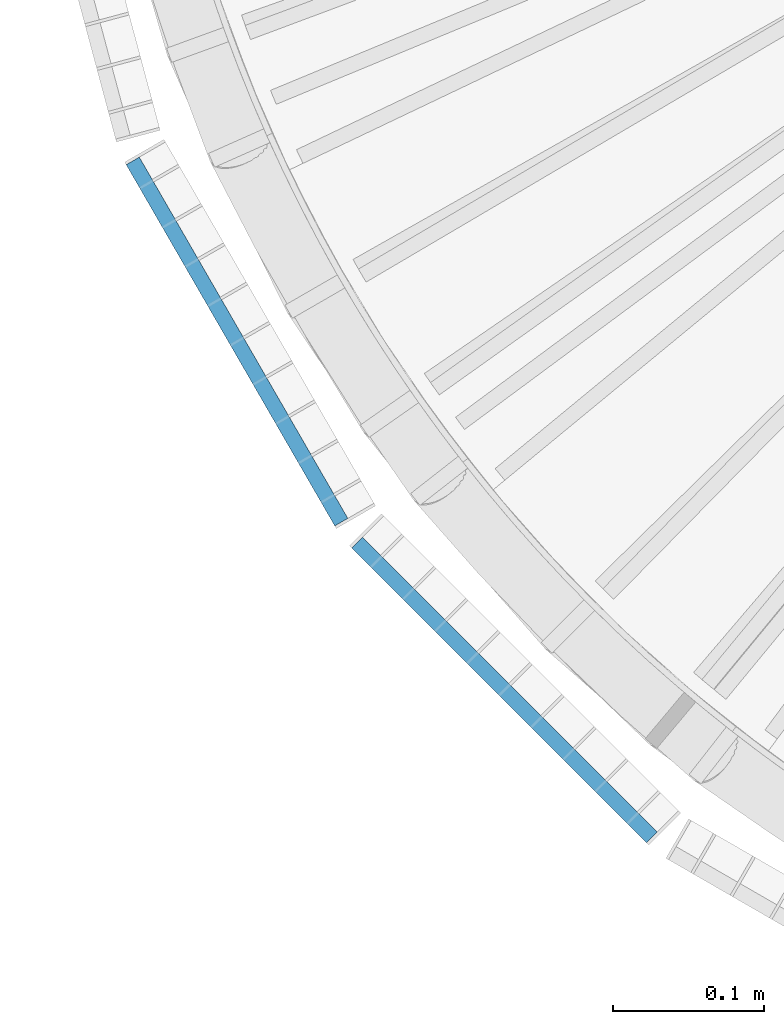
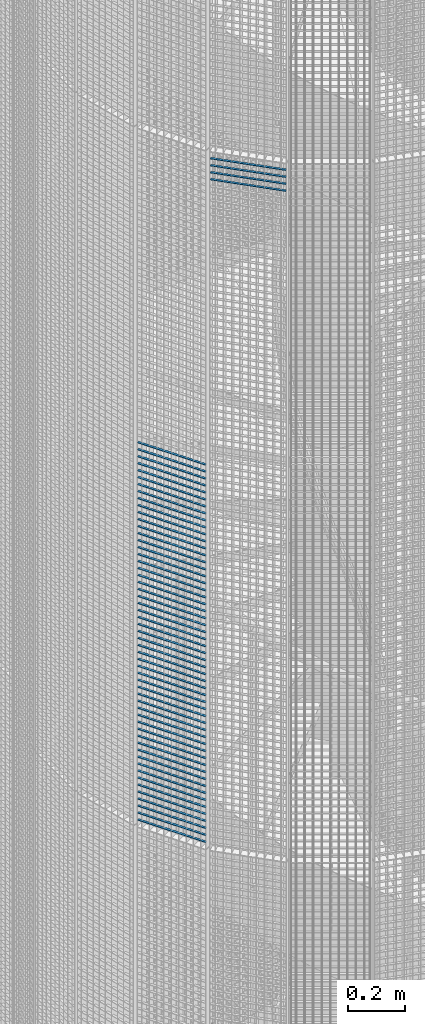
# One storey, part 356 of 1183: 59 beams, 2 elements without a shape of their own.
"""IFC2X3 building model written with IfcOpenShell, lengths in millimetres."""

from ifc_helpers import new_model, si_unit, frame, origin_with_axes, origin_2d_with_axis, place, context, subcontext, project, spatial, rectangle, extrude, material, type_object, element, aggregate, save


model = new_model("IFC2X3")

# Units and contexts
model_context = context("Model", 3, precision=1e-05, world=origin_with_axes())
body_context = subcontext(model_context, "Body", "Model", "MODEL_VIEW")
ifc_project = project(units=[si_unit("LENGTHUNIT", "METRE", prefix="MILLI"), si_unit("AREAUNIT", "SQUARE_METRE"), si_unit("VOLUMEUNIT", "CUBIC_METRE"), si_unit("MASSUNIT", "GRAM", prefix="KILO"), si_unit("TIMEUNIT", "SECOND"), si_unit("PLANEANGLEUNIT", "RADIAN"), si_unit("SOLIDANGLEUNIT", "STERADIAN"), si_unit("THERMODYNAMICTEMPERATUREUNIT", "DEGREE_CELSIUS"), si_unit("LUMINOUSINTENSITYUNIT", "LUMEN")], contexts=[model_context])

# Site, building, storey
site_placement = place(None, origin_with_axes())
site = spatial("IfcSite", under=ifc_project, at=site_placement, Name="Undefined", CompositionType="ELEMENT")
building_placement = place(site_placement, origin_with_axes())
building = spatial("IfcBuilding", under=site, at=building_placement, Name="Undefined", CompositionType="ELEMENT")
storey_placement = place(building_placement, origin_with_axes())
storey = spatial("IfcBuildingStorey", under=building, at=storey_placement, Name="Undefined", CompositionType="ELEMENT", Elevation=0.0)

# Assembly, beams
assembly_1_placement = place(storey_placement, origin_with_axes())
assembly_1 = element("IfcElementAssembly", 1, at=assembly_1_placement, inside=storey, Name="BORDURE", AssemblyPlace="NOTDEFINED", PredefinedType="NOTDEFINED")
ifc_material = material(Name="STEEL/S235JR")
beam_type = type_object("IfcBeamType", Name="PL2*10", PredefinedType="NOTDEFINED")
beam_1_placement = place(assembly_1_placement, frame((20704.6960350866, -676.248044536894, 10650.0), z_axis=(-0.866025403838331, -0.499999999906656, 0.0), x_axis=(-0.49999999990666, 0.866025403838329, 0.0)))
beam_1 = element("IfcBeam", 2, at=beam_1_placement, type_object=beam_type, material=ifc_material, Name="ENTRETOISE", context=body_context, shape_type="SweptSolid", body=[
    extrude(rectangle(XDim=2.0, YDim=10.0, at=origin_2d_with_axis()), frame((275.999999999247, 9.09494701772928e-13, 1.53210777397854e-14), z_axis=(-1.0, 0.0, 0.0), x_axis=(0.0, -1.0, 0.0)), (0.0, 0.0, 1.0), 276.0),
])
beam_2_placement = place(assembly_1_placement, frame((20704.6960350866, -676.248044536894, 10620.0), z_axis=(-0.866025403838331, -0.499999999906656, 0.0), x_axis=(-0.49999999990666, 0.866025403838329, 0.0)))
beam_2 = element("IfcBeam", 3, at=beam_2_placement, type_object=beam_type, material=ifc_material, Name="ENTRETOISE", context=body_context, shape_type="SweptSolid", body=[
    extrude(rectangle(XDim=2.0, YDim=10.0, at=origin_2d_with_axis()), frame((275.999999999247, 9.09494701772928e-13, 1.53210777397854e-14), z_axis=(-1.0, 0.0, 0.0), x_axis=(0.0, -1.0, 0.0)), (0.0, 0.0, 1.0), 276.0),
])
beam_3_placement = place(assembly_1_placement, frame((20704.6960350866, -676.248044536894, 10590.0), z_axis=(-0.866025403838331, -0.499999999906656, 0.0), x_axis=(-0.49999999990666, 0.866025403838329, 0.0)))
beam_3 = element("IfcBeam", 4, at=beam_3_placement, type_object=beam_type, material=ifc_material, Name="ENTRETOISE", context=body_context, shape_type="SweptSolid", body=[
    extrude(rectangle(XDim=2.0, YDim=10.0, at=origin_2d_with_axis()), frame((275.999999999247, 9.09494701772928e-13, 1.53210777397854e-14), z_axis=(-1.0, 0.0, 0.0), x_axis=(0.0, -1.0, 0.0)), (0.0, 0.0, 1.0), 276.0),
])
beam_4_placement = place(assembly_1_placement, frame((20704.6960350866, -676.248044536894, 10560.0), z_axis=(-0.866025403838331, -0.499999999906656, 0.0), x_axis=(-0.49999999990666, 0.866025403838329, 0.0)))
beam_4 = element("IfcBeam", 5, at=beam_4_placement, type_object=beam_type, material=ifc_material, Name="ENTRETOISE", context=body_context, shape_type="SweptSolid", body=[
    extrude(rectangle(XDim=2.0, YDim=10.0, at=origin_2d_with_axis()), frame((275.999999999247, 9.09494701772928e-13, 1.53210777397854e-14), z_axis=(-1.0, 0.0, 0.0), x_axis=(0.0, -1.0, 0.0)), (0.0, 0.0, 1.0), 276.0),
])
beam_5_placement = place(assembly_1_placement, frame((20704.6960350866, -676.248044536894, 10530.0), z_axis=(-0.866025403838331, -0.499999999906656, 0.0), x_axis=(-0.49999999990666, 0.866025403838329, 0.0)))
beam_5 = element("IfcBeam", 6, at=beam_5_placement, type_object=beam_type, material=ifc_material, Name="ENTRETOISE", context=body_context, shape_type="SweptSolid", body=[
    extrude(rectangle(XDim=2.0, YDim=10.0, at=origin_2d_with_axis()), frame((275.999999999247, 9.09494701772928e-13, 1.53210777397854e-14), z_axis=(-1.0, 0.0, 0.0), x_axis=(0.0, -1.0, 0.0)), (0.0, 0.0, 1.0), 276.0),
])
beam_6_placement = place(assembly_1_placement, frame((20704.6960350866, -676.248044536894, 10500.0), z_axis=(-0.866025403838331, -0.499999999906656, 0.0), x_axis=(-0.49999999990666, 0.866025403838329, 0.0)))
beam_6 = element("IfcBeam", 7, at=beam_6_placement, type_object=beam_type, material=ifc_material, Name="ENTRETOISE", context=body_context, shape_type="SweptSolid", body=[
    extrude(rectangle(XDim=2.0, YDim=10.0, at=origin_2d_with_axis()), frame((275.999999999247, 9.09494701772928e-13, 1.53210777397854e-14), z_axis=(-1.0, 0.0, 0.0), x_axis=(0.0, -1.0, 0.0)), (0.0, 0.0, 1.0), 276.0),
])
beam_7_placement = place(assembly_1_placement, frame((20704.6960350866, -676.248044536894, 10470.0), z_axis=(-0.866025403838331, -0.499999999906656, 0.0), x_axis=(-0.49999999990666, 0.866025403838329, 0.0)))
beam_7 = element("IfcBeam", 8, at=beam_7_placement, type_object=beam_type, material=ifc_material, Name="ENTRETOISE", context=body_context, shape_type="SweptSolid", body=[
    extrude(rectangle(XDim=2.0, YDim=10.0, at=origin_2d_with_axis()), frame((275.999999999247, 9.09494701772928e-13, 1.53210777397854e-14), z_axis=(-1.0, 0.0, 0.0), x_axis=(0.0, -1.0, 0.0)), (0.0, 0.0, 1.0), 276.0),
])
beam_8_placement = place(assembly_1_placement, frame((20704.6960350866, -676.248044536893, 10440.0), z_axis=(-0.866025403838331, -0.499999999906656, 0.0), x_axis=(-0.49999999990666, 0.866025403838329, 0.0)))
beam_8 = element("IfcBeam", 9, at=beam_8_placement, type_object=beam_type, material=ifc_material, Name="ENTRETOISE", context=body_context, shape_type="SweptSolid", body=[
    extrude(rectangle(XDim=2.0, YDim=10.0, at=origin_2d_with_axis()), frame((275.999999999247, 9.09494701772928e-13, 1.53210777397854e-14), z_axis=(-1.0, 0.0, 0.0), x_axis=(0.0, -1.0, 0.0)), (0.0, 0.0, 1.0), 276.0),
])
beam_9_placement = place(assembly_1_placement, frame((20704.6960350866, -676.248044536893, 10410.0), z_axis=(-0.866025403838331, -0.499999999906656, 0.0), x_axis=(-0.49999999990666, 0.866025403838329, 0.0)))
beam_9 = element("IfcBeam", 10, at=beam_9_placement, type_object=beam_type, material=ifc_material, Name="ENTRETOISE", context=body_context, shape_type="SweptSolid", body=[
    extrude(rectangle(XDim=2.0, YDim=10.0, at=origin_2d_with_axis()), frame((275.999999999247, 9.09494701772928e-13, 1.53210777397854e-14), z_axis=(-1.0, 0.0, 0.0), x_axis=(0.0, -1.0, 0.0)), (0.0, 0.0, 1.0), 276.0),
])
beam_10_placement = place(assembly_1_placement, frame((20704.6960350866, -676.248044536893, 10380.0), z_axis=(-0.866025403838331, -0.499999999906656, 0.0), x_axis=(-0.49999999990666, 0.866025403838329, 0.0)))
beam_10 = element("IfcBeam", 11, at=beam_10_placement, type_object=beam_type, material=ifc_material, Name="ENTRETOISE", context=body_context, shape_type="SweptSolid", body=[
    extrude(rectangle(XDim=2.0, YDim=10.0, at=origin_2d_with_axis()), frame((275.999999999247, 9.09494701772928e-13, 1.53210777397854e-14), z_axis=(-1.0, 0.0, 0.0), x_axis=(0.0, -1.0, 0.0)), (0.0, 0.0, 1.0), 276.0),
])
beam_11_placement = place(assembly_1_placement, frame((20704.6960350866, -676.248044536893, 10350.0), z_axis=(-0.866025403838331, -0.499999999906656, 0.0), x_axis=(-0.49999999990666, 0.866025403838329, 0.0)))
beam_11 = element("IfcBeam", 12, at=beam_11_placement, type_object=beam_type, material=ifc_material, Name="ENTRETOISE", context=body_context, shape_type="SweptSolid", body=[
    extrude(rectangle(XDim=2.0, YDim=10.0, at=origin_2d_with_axis()), frame((275.999999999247, 9.09494701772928e-13, 1.53210777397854e-14), z_axis=(-1.0, 0.0, 0.0), x_axis=(0.0, -1.0, 0.0)), (0.0, 0.0, 1.0), 276.0),
])
beam_12_placement = place(assembly_1_placement, frame((20704.6960350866, -676.248044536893, 10320.0), z_axis=(-0.866025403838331, -0.499999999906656, 0.0), x_axis=(-0.49999999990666, 0.866025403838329, 0.0)))
beam_12 = element("IfcBeam", 13, at=beam_12_placement, type_object=beam_type, material=ifc_material, Name="ENTRETOISE", context=body_context, shape_type="SweptSolid", body=[
    extrude(rectangle(XDim=2.0, YDim=10.0, at=origin_2d_with_axis()), frame((275.999999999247, 9.09494701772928e-13, 1.53210777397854e-14), z_axis=(-1.0, 0.0, 0.0), x_axis=(0.0, -1.0, 0.0)), (0.0, 0.0, 1.0), 276.0),
])
beam_13_placement = place(assembly_1_placement, frame((20704.6960350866, -676.248044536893, 10290.0), z_axis=(-0.866025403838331, -0.499999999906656, 0.0), x_axis=(-0.49999999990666, 0.866025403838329, 0.0)))
beam_13 = element("IfcBeam", 14, at=beam_13_placement, type_object=beam_type, material=ifc_material, Name="ENTRETOISE", context=body_context, shape_type="SweptSolid", body=[
    extrude(rectangle(XDim=2.0, YDim=10.0, at=origin_2d_with_axis()), frame((275.999999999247, 9.09494701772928e-13, 1.53210777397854e-14), z_axis=(-1.0, 0.0, 0.0), x_axis=(0.0, -1.0, 0.0)), (0.0, 0.0, 1.0), 276.0),
])
beam_14_placement = place(assembly_1_placement, frame((20704.6960350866, -676.248044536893, 10260.0), z_axis=(-0.866025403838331, -0.499999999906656, 0.0), x_axis=(-0.49999999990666, 0.866025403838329, 0.0)))
beam_14 = element("IfcBeam", 15, at=beam_14_placement, type_object=beam_type, material=ifc_material, Name="ENTRETOISE", context=body_context, shape_type="SweptSolid", body=[
    extrude(rectangle(XDim=2.0, YDim=10.0, at=origin_2d_with_axis()), frame((275.999999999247, 9.09494701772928e-13, 1.53210777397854e-14), z_axis=(-1.0, 0.0, 0.0), x_axis=(0.0, -1.0, 0.0)), (0.0, 0.0, 1.0), 276.0),
])
beam_15_placement = place(assembly_1_placement, frame((20704.6960350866, -676.248044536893, 10230.0), z_axis=(-0.866025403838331, -0.499999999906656, 0.0), x_axis=(-0.49999999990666, 0.866025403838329, 0.0)))
beam_15 = element("IfcBeam", 16, at=beam_15_placement, type_object=beam_type, material=ifc_material, Name="ENTRETOISE", context=body_context, shape_type="SweptSolid", body=[
    extrude(rectangle(XDim=2.0, YDim=10.0, at=origin_2d_with_axis()), frame((275.999999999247, 9.09494701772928e-13, 1.53210777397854e-14), z_axis=(-1.0, 0.0, 0.0), x_axis=(0.0, -1.0, 0.0)), (0.0, 0.0, 1.0), 276.0),
])
beam_16_placement = place(assembly_1_placement, frame((20704.6960350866, -676.248044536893, 10200.0), z_axis=(-0.866025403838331, -0.499999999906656, 0.0), x_axis=(-0.49999999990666, 0.866025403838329, 0.0)))
beam_16 = element("IfcBeam", 17, at=beam_16_placement, type_object=beam_type, material=ifc_material, Name="ENTRETOISE", context=body_context, shape_type="SweptSolid", body=[
    extrude(rectangle(XDim=2.0, YDim=10.0, at=origin_2d_with_axis()), frame((275.999999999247, 9.09494701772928e-13, 1.53210777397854e-14), z_axis=(-1.0, 0.0, 0.0), x_axis=(0.0, -1.0, 0.0)), (0.0, 0.0, 1.0), 276.0),
])
beam_17_placement = place(assembly_1_placement, frame((20704.6960350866, -676.248044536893, 10170.0), z_axis=(-0.866025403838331, -0.499999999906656, 0.0), x_axis=(-0.49999999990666, 0.866025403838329, 0.0)))
beam_17 = element("IfcBeam", 18, at=beam_17_placement, type_object=beam_type, material=ifc_material, Name="ENTRETOISE", context=body_context, shape_type="SweptSolid", body=[
    extrude(rectangle(XDim=2.0, YDim=10.0, at=origin_2d_with_axis()), frame((275.999999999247, 9.09494701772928e-13, 1.53210777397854e-14), z_axis=(-1.0, 0.0, 0.0), x_axis=(0.0, -1.0, 0.0)), (0.0, 0.0, 1.0), 276.0),
])
beam_18_placement = place(assembly_1_placement, frame((20704.6960350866, -676.248044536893, 10140.0), z_axis=(-0.866025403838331, -0.499999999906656, 0.0), x_axis=(-0.49999999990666, 0.866025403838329, 0.0)))
beam_18 = element("IfcBeam", 19, at=beam_18_placement, type_object=beam_type, material=ifc_material, Name="ENTRETOISE", context=body_context, shape_type="SweptSolid", body=[
    extrude(rectangle(XDim=2.0, YDim=10.0, at=origin_2d_with_axis()), frame((275.999999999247, 9.09494701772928e-13, 1.53210777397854e-14), z_axis=(-1.0, 0.0, 0.0), x_axis=(0.0, -1.0, 0.0)), (0.0, 0.0, 1.0), 276.0),
])
beam_19_placement = place(assembly_1_placement, frame((20704.6960350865, -676.248044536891, 9720.0), z_axis=(-0.866025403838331, -0.499999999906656, 0.0), x_axis=(-0.49999999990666, 0.866025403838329, 0.0)))
beam_19 = element("IfcBeam", 20, at=beam_19_placement, type_object=beam_type, material=ifc_material, Name="ENTRETOISE", context=body_context, shape_type="SweptSolid", body=[
    extrude(rectangle(XDim=2.0, YDim=10.0, at=origin_2d_with_axis()), frame((275.999999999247, 9.09494701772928e-13, 1.53210777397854e-14), z_axis=(-1.0, 0.0, 0.0), x_axis=(0.0, -1.0, 0.0)), (0.0, 0.0, 1.0), 276.0),
])
beam_20_placement = place(assembly_1_placement, frame((20704.6960350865, -676.248044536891, 9690.0), z_axis=(-0.866025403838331, -0.499999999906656, 0.0), x_axis=(-0.49999999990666, 0.866025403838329, 0.0)))
beam_20 = element("IfcBeam", 21, at=beam_20_placement, type_object=beam_type, material=ifc_material, Name="ENTRETOISE", context=body_context, shape_type="SweptSolid", body=[
    extrude(rectangle(XDim=2.0, YDim=10.0, at=origin_2d_with_axis()), frame((275.999999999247, 9.09494701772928e-13, 1.53210777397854e-14), z_axis=(-1.0, 0.0, 0.0), x_axis=(0.0, -1.0, 0.0)), (0.0, 0.0, 1.0), 276.0),
])
beam_21_placement = place(assembly_1_placement, frame((20704.6960350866, -676.248044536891, 9750.0), z_axis=(-0.866025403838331, -0.499999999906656, 0.0), x_axis=(-0.49999999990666, 0.866025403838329, 0.0)))
beam_21 = element("IfcBeam", 22, at=beam_21_placement, type_object=beam_type, material=ifc_material, Name="ENTRETOISE", context=body_context, shape_type="SweptSolid", body=[
    extrude(rectangle(XDim=2.0, YDim=10.0, at=origin_2d_with_axis()), frame((275.999999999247, 9.09494701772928e-13, 1.53210777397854e-14), z_axis=(-1.0, 0.0, 0.0), x_axis=(0.0, -1.0, 0.0)), (0.0, 0.0, 1.0), 276.0),
])
beam_22_placement = place(assembly_1_placement, frame((20704.6960350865, -676.248044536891, 9660.0), z_axis=(-0.866025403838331, -0.499999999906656, 0.0), x_axis=(-0.49999999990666, 0.866025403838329, 0.0)))
beam_22 = element("IfcBeam", 23, at=beam_22_placement, type_object=beam_type, material=ifc_material, Name="ENTRETOISE", context=body_context, shape_type="SweptSolid", body=[
    extrude(rectangle(XDim=2.0, YDim=10.0, at=origin_2d_with_axis()), frame((275.999999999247, 9.09494701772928e-13, 1.53210777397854e-14), z_axis=(-1.0, 0.0, 0.0), x_axis=(0.0, -1.0, 0.0)), (0.0, 0.0, 1.0), 276.0),
])
beam_23_placement = place(assembly_1_placement, frame((20704.6960350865, -676.248044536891, 9630.0), z_axis=(-0.866025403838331, -0.499999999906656, 0.0), x_axis=(-0.49999999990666, 0.866025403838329, 0.0)))
beam_23 = element("IfcBeam", 24, at=beam_23_placement, type_object=beam_type, material=ifc_material, Name="ENTRETOISE", context=body_context, shape_type="SweptSolid", body=[
    extrude(rectangle(XDim=2.0, YDim=10.0, at=origin_2d_with_axis()), frame((275.999999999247, 9.09494701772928e-13, 1.53210777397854e-14), z_axis=(-1.0, 0.0, 0.0), x_axis=(0.0, -1.0, 0.0)), (0.0, 0.0, 1.0), 276.0),
])
beam_24_placement = place(assembly_1_placement, frame((20704.6960350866, -676.248044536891, 9780.0), z_axis=(-0.866025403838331, -0.499999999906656, 0.0), x_axis=(-0.49999999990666, 0.866025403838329, 0.0)))
beam_24 = element("IfcBeam", 25, at=beam_24_placement, type_object=beam_type, material=ifc_material, Name="ENTRETOISE", context=body_context, shape_type="SweptSolid", body=[
    extrude(rectangle(XDim=2.0, YDim=10.0, at=origin_2d_with_axis()), frame((275.999999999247, 9.09494701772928e-13, 1.53210777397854e-14), z_axis=(-1.0, 0.0, 0.0), x_axis=(0.0, -1.0, 0.0)), (0.0, 0.0, 1.0), 276.0),
])
beam_25_placement = place(assembly_1_placement, frame((20704.6960350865, -676.248044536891, 9600.0), z_axis=(-0.866025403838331, -0.499999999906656, 0.0), x_axis=(-0.49999999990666, 0.866025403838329, 0.0)))
beam_25 = element("IfcBeam", 26, at=beam_25_placement, type_object=beam_type, material=ifc_material, Name="ENTRETOISE", context=body_context, shape_type="SweptSolid", body=[
    extrude(rectangle(XDim=2.0, YDim=10.0, at=origin_2d_with_axis()), frame((275.999999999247, 9.09494701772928e-13, 1.53210777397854e-14), z_axis=(-1.0, 0.0, 0.0), x_axis=(0.0, -1.0, 0.0)), (0.0, 0.0, 1.0), 276.0),
])
beam_26_placement = place(assembly_1_placement, frame((20704.6960350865, -676.248044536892, 9810.0), z_axis=(-0.866025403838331, -0.499999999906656, 0.0), x_axis=(-0.49999999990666, 0.866025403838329, 0.0)))
beam_26 = element("IfcBeam", 27, at=beam_26_placement, type_object=beam_type, material=ifc_material, Name="ENTRETOISE", context=body_context, shape_type="SweptSolid", body=[
    extrude(rectangle(XDim=2.0, YDim=10.0, at=origin_2d_with_axis()), frame((275.999999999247, 9.09494701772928e-13, 1.53210777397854e-14), z_axis=(-1.0, 0.0, 0.0), x_axis=(0.0, -1.0, 0.0)), (0.0, 0.0, 1.0), 276.0),
])
beam_27_placement = place(assembly_1_placement, frame((20704.6960350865, -676.248044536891, 9570.0), z_axis=(-0.866025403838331, -0.499999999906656, 0.0), x_axis=(-0.49999999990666, 0.866025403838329, 0.0)))
beam_27 = element("IfcBeam", 28, at=beam_27_placement, type_object=beam_type, material=ifc_material, Name="ENTRETOISE", context=body_context, shape_type="SweptSolid", body=[
    extrude(rectangle(XDim=2.0, YDim=10.0, at=origin_2d_with_axis()), frame((275.999999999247, 9.09494701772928e-13, 1.53210777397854e-14), z_axis=(-1.0, 0.0, 0.0), x_axis=(0.0, -1.0, 0.0)), (0.0, 0.0, 1.0), 276.0),
])
beam_28_placement = place(assembly_1_placement, frame((20704.6960350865, -676.248044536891, 9540.0), z_axis=(-0.866025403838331, -0.499999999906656, 0.0), x_axis=(-0.49999999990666, 0.866025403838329, 0.0)))
beam_28 = element("IfcBeam", 29, at=beam_28_placement, type_object=beam_type, material=ifc_material, Name="ENTRETOISE", context=body_context, shape_type="SweptSolid", body=[
    extrude(rectangle(XDim=2.0, YDim=10.0, at=origin_2d_with_axis()), frame((275.999999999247, 9.09494701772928e-13, 1.53210777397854e-14), z_axis=(-1.0, 0.0, 0.0), x_axis=(0.0, -1.0, 0.0)), (0.0, 0.0, 1.0), 276.0),
])
beam_29_placement = place(assembly_1_placement, frame((20704.6960350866, -676.248044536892, 9840.0), z_axis=(-0.866025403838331, -0.499999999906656, 0.0), x_axis=(-0.49999999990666, 0.866025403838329, 0.0)))
beam_29 = element("IfcBeam", 30, at=beam_29_placement, type_object=beam_type, material=ifc_material, Name="ENTRETOISE", context=body_context, shape_type="SweptSolid", body=[
    extrude(rectangle(XDim=2.0, YDim=10.0, at=origin_2d_with_axis()), frame((275.999999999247, 9.09494701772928e-13, 1.53210777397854e-14), z_axis=(-1.0, 0.0, 0.0), x_axis=(0.0, -1.0, 0.0)), (0.0, 0.0, 1.0), 276.0),
])
beam_30_placement = place(assembly_1_placement, frame((20704.6960350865, -676.248044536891, 9510.0), z_axis=(-0.866025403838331, -0.499999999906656, 0.0), x_axis=(-0.49999999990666, 0.866025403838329, 0.0)))
beam_30 = element("IfcBeam", 31, at=beam_30_placement, type_object=beam_type, material=ifc_material, Name="ENTRETOISE", context=body_context, shape_type="SweptSolid", body=[
    extrude(rectangle(XDim=2.0, YDim=10.0, at=origin_2d_with_axis()), frame((275.999999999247, 9.09494701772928e-13, 1.53210777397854e-14), z_axis=(-1.0, 0.0, 0.0), x_axis=(0.0, -1.0, 0.0)), (0.0, 0.0, 1.0), 276.0),
])
beam_31_placement = place(assembly_1_placement, frame((20704.6960350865, -676.248044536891, 9480.0), z_axis=(-0.866025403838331, -0.499999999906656, 0.0), x_axis=(-0.49999999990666, 0.866025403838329, 0.0)))
beam_31 = element("IfcBeam", 32, at=beam_31_placement, type_object=beam_type, material=ifc_material, Name="ENTRETOISE", context=body_context, shape_type="SweptSolid", body=[
    extrude(rectangle(XDim=2.0, YDim=10.0, at=origin_2d_with_axis()), frame((275.999999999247, 9.09494701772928e-13, 1.53210777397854e-14), z_axis=(-1.0, 0.0, 0.0), x_axis=(0.0, -1.0, 0.0)), (0.0, 0.0, 1.0), 276.0),
])
beam_32_placement = place(assembly_1_placement, frame((20704.6960350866, -676.248044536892, 9870.0), z_axis=(-0.866025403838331, -0.499999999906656, 0.0), x_axis=(-0.49999999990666, 0.866025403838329, 0.0)))
beam_32 = element("IfcBeam", 33, at=beam_32_placement, type_object=beam_type, material=ifc_material, Name="ENTRETOISE", context=body_context, shape_type="SweptSolid", body=[
    extrude(rectangle(XDim=2.0, YDim=10.0, at=origin_2d_with_axis()), frame((275.999999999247, 9.09494701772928e-13, 1.53210777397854e-14), z_axis=(-1.0, 0.0, 0.0), x_axis=(0.0, -1.0, 0.0)), (0.0, 0.0, 1.0), 276.0),
])
beam_33_placement = place(assembly_1_placement, frame((20704.6960350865, -676.248044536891, 9450.0), z_axis=(-0.866025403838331, -0.499999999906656, 0.0), x_axis=(-0.49999999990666, 0.866025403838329, 0.0)))
beam_33 = element("IfcBeam", 34, at=beam_33_placement, type_object=beam_type, material=ifc_material, Name="ENTRETOISE", context=body_context, shape_type="SweptSolid", body=[
    extrude(rectangle(XDim=2.0, YDim=10.0, at=origin_2d_with_axis()), frame((275.999999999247, 9.09494701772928e-13, 1.53210777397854e-14), z_axis=(-1.0, 0.0, 0.0), x_axis=(0.0, -1.0, 0.0)), (0.0, 0.0, 1.0), 276.0),
])
beam_34_placement = place(assembly_1_placement, frame((20704.6960350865, -676.24804453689, 9420.0), z_axis=(-0.866025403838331, -0.499999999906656, 0.0), x_axis=(-0.49999999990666, 0.866025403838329, 0.0)))
beam_34 = element("IfcBeam", 35, at=beam_34_placement, type_object=beam_type, material=ifc_material, Name="ENTRETOISE", context=body_context, shape_type="SweptSolid", body=[
    extrude(rectangle(XDim=2.0, YDim=10.0, at=origin_2d_with_axis()), frame((275.999999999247, 9.09494701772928e-13, 1.53210777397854e-14), z_axis=(-1.0, 0.0, 0.0), x_axis=(0.0, -1.0, 0.0)), (0.0, 0.0, 1.0), 276.0),
])
beam_35_placement = place(assembly_1_placement, frame((20704.6960350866, -676.248044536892, 9900.0), z_axis=(-0.866025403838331, -0.499999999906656, 0.0), x_axis=(-0.49999999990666, 0.866025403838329, 0.0)))
beam_35 = element("IfcBeam", 36, at=beam_35_placement, type_object=beam_type, material=ifc_material, Name="ENTRETOISE", context=body_context, shape_type="SweptSolid", body=[
    extrude(rectangle(XDim=2.0, YDim=10.0, at=origin_2d_with_axis()), frame((275.999999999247, 9.09494701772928e-13, 1.53210777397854e-14), z_axis=(-1.0, 0.0, 0.0), x_axis=(0.0, -1.0, 0.0)), (0.0, 0.0, 1.0), 276.0),
])
beam_36_placement = place(assembly_1_placement, frame((20704.6960350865, -676.24804453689, 9390.0), z_axis=(-0.866025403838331, -0.499999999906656, 0.0), x_axis=(-0.49999999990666, 0.866025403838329, 0.0)))
beam_36 = element("IfcBeam", 37, at=beam_36_placement, type_object=beam_type, material=ifc_material, Name="ENTRETOISE", context=body_context, shape_type="SweptSolid", body=[
    extrude(rectangle(XDim=2.0, YDim=10.0, at=origin_2d_with_axis()), frame((275.999999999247, 9.09494701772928e-13, 1.53210777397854e-14), z_axis=(-1.0, 0.0, 0.0), x_axis=(0.0, -1.0, 0.0)), (0.0, 0.0, 1.0), 276.0),
])
beam_37_placement = place(assembly_1_placement, frame((20704.6960350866, -676.248044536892, 9930.0), z_axis=(-0.866025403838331, -0.499999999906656, 0.0), x_axis=(-0.49999999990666, 0.866025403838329, 0.0)))
beam_37 = element("IfcBeam", 38, at=beam_37_placement, type_object=beam_type, material=ifc_material, Name="ENTRETOISE", context=body_context, shape_type="SweptSolid", body=[
    extrude(rectangle(XDim=2.0, YDim=10.0, at=origin_2d_with_axis()), frame((275.999999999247, 9.09494701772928e-13, 1.53210777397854e-14), z_axis=(-1.0, 0.0, 0.0), x_axis=(0.0, -1.0, 0.0)), (0.0, 0.0, 1.0), 276.0),
])
beam_38_placement = place(assembly_1_placement, frame((20704.6960350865, -676.24804453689, 9360.0), z_axis=(-0.866025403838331, -0.499999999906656, 0.0), x_axis=(-0.49999999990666, 0.866025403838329, 0.0)))
beam_38 = element("IfcBeam", 39, at=beam_38_placement, type_object=beam_type, material=ifc_material, Name="ENTRETOISE", context=body_context, shape_type="SweptSolid", body=[
    extrude(rectangle(XDim=2.0, YDim=10.0, at=origin_2d_with_axis()), frame((275.999999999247, 9.09494701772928e-13, 1.53210777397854e-14), z_axis=(-1.0, 0.0, 0.0), x_axis=(0.0, -1.0, 0.0)), (0.0, 0.0, 1.0), 276.0),
])
beam_39_placement = place(assembly_1_placement, frame((20704.6960350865, -676.24804453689, 9330.0), z_axis=(-0.866025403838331, -0.499999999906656, 0.0), x_axis=(-0.49999999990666, 0.866025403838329, 0.0)))
beam_39 = element("IfcBeam", 40, at=beam_39_placement, type_object=beam_type, material=ifc_material, Name="ENTRETOISE", context=body_context, shape_type="SweptSolid", body=[
    extrude(rectangle(XDim=2.0, YDim=10.0, at=origin_2d_with_axis()), frame((275.999999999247, 9.09494701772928e-13, 1.53210777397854e-14), z_axis=(-1.0, 0.0, 0.0), x_axis=(0.0, -1.0, 0.0)), (0.0, 0.0, 1.0), 276.0),
])
beam_40_placement = place(assembly_1_placement, frame((20704.6960350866, -676.248044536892, 9960.0), z_axis=(-0.866025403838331, -0.499999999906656, 0.0), x_axis=(-0.49999999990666, 0.866025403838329, 0.0)))
beam_40 = element("IfcBeam", 41, at=beam_40_placement, type_object=beam_type, material=ifc_material, Name="ENTRETOISE", context=body_context, shape_type="SweptSolid", body=[
    extrude(rectangle(XDim=2.0, YDim=10.0, at=origin_2d_with_axis()), frame((275.999999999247, 9.09494701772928e-13, 1.53210777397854e-14), z_axis=(-1.0, 0.0, 0.0), x_axis=(0.0, -1.0, 0.0)), (0.0, 0.0, 1.0), 276.0),
])
beam_41_placement = place(assembly_1_placement, frame((20704.6960350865, -676.24804453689, 9300.0), z_axis=(-0.866025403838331, -0.499999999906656, 0.0), x_axis=(-0.49999999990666, 0.866025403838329, 0.0)))
beam_41 = element("IfcBeam", 42, at=beam_41_placement, type_object=beam_type, material=ifc_material, Name="ENTRETOISE", context=body_context, shape_type="SweptSolid", body=[
    extrude(rectangle(XDim=2.0, YDim=10.0, at=origin_2d_with_axis()), frame((275.999999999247, 9.09494701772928e-13, 1.53210777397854e-14), z_axis=(-1.0, 0.0, 0.0), x_axis=(0.0, -1.0, 0.0)), (0.0, 0.0, 1.0), 276.0),
])
beam_42_placement = place(assembly_1_placement, frame((20704.6960350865, -676.24804453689, 9270.0), z_axis=(-0.866025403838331, -0.499999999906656, 0.0), x_axis=(-0.49999999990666, 0.866025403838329, 0.0)))
beam_42 = element("IfcBeam", 43, at=beam_42_placement, type_object=beam_type, material=ifc_material, Name="ENTRETOISE", context=body_context, shape_type="SweptSolid", body=[
    extrude(rectangle(XDim=2.0, YDim=10.0, at=origin_2d_with_axis()), frame((275.999999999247, 9.09494701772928e-13, 1.53210777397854e-14), z_axis=(-1.0, 0.0, 0.0), x_axis=(0.0, -1.0, 0.0)), (0.0, 0.0, 1.0), 276.0),
])
beam_43_placement = place(assembly_1_placement, frame((20704.6960350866, -676.248044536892, 9990.0), z_axis=(-0.866025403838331, -0.499999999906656, 0.0), x_axis=(-0.49999999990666, 0.866025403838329, 0.0)))
beam_43 = element("IfcBeam", 44, at=beam_43_placement, type_object=beam_type, material=ifc_material, Name="ENTRETOISE", context=body_context, shape_type="SweptSolid", body=[
    extrude(rectangle(XDim=2.0, YDim=10.0, at=origin_2d_with_axis()), frame((275.999999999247, 9.09494701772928e-13, 1.53210777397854e-14), z_axis=(-1.0, 0.0, 0.0), x_axis=(0.0, -1.0, 0.0)), (0.0, 0.0, 1.0), 276.0),
])
beam_44_placement = place(assembly_1_placement, frame((20704.6960350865, -676.24804453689, 9240.0), z_axis=(-0.866025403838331, -0.499999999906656, 0.0), x_axis=(-0.49999999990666, 0.866025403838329, 0.0)))
beam_44 = element("IfcBeam", 45, at=beam_44_placement, type_object=beam_type, material=ifc_material, Name="ENTRETOISE", context=body_context, shape_type="SweptSolid", body=[
    extrude(rectangle(XDim=2.0, YDim=10.0, at=origin_2d_with_axis()), frame((275.999999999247, 9.09494701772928e-13, 1.53210777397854e-14), z_axis=(-1.0, 0.0, 0.0), x_axis=(0.0, -1.0, 0.0)), (0.0, 0.0, 1.0), 276.0),
])
beam_45_placement = place(assembly_1_placement, frame((20704.6960350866, -676.248044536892, 10020.0), z_axis=(-0.866025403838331, -0.499999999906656, 0.0), x_axis=(-0.49999999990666, 0.866025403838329, 0.0)))
beam_45 = element("IfcBeam", 46, at=beam_45_placement, type_object=beam_type, material=ifc_material, Name="ENTRETOISE", context=body_context, shape_type="SweptSolid", body=[
    extrude(rectangle(XDim=2.0, YDim=10.0, at=origin_2d_with_axis()), frame((275.999999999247, 9.09494701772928e-13, 1.53210777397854e-14), z_axis=(-1.0, 0.0, 0.0), x_axis=(0.0, -1.0, 0.0)), (0.0, 0.0, 1.0), 276.0),
])
beam_46_placement = place(assembly_1_placement, frame((20704.6960350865, -676.24804453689, 9210.0), z_axis=(-0.866025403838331, -0.499999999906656, 0.0), x_axis=(-0.49999999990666, 0.866025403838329, 0.0)))
beam_46 = element("IfcBeam", 47, at=beam_46_placement, type_object=beam_type, material=ifc_material, Name="ENTRETOISE", context=body_context, shape_type="SweptSolid", body=[
    extrude(rectangle(XDim=2.0, YDim=10.0, at=origin_2d_with_axis()), frame((275.999999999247, 9.09494701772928e-13, 1.53210777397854e-14), z_axis=(-1.0, 0.0, 0.0), x_axis=(0.0, -1.0, 0.0)), (0.0, 0.0, 1.0), 276.0),
])
beam_47_placement = place(assembly_1_placement, frame((20704.6960350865, -676.24804453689, 9180.0), z_axis=(-0.866025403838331, -0.499999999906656, 0.0), x_axis=(-0.49999999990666, 0.866025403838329, 0.0)))
beam_47 = element("IfcBeam", 48, at=beam_47_placement, type_object=beam_type, material=ifc_material, Name="ENTRETOISE", context=body_context, shape_type="SweptSolid", body=[
    extrude(rectangle(XDim=2.0, YDim=10.0, at=origin_2d_with_axis()), frame((275.999999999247, 9.09494701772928e-13, 1.53210777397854e-14), z_axis=(-1.0, 0.0, 0.0), x_axis=(0.0, -1.0, 0.0)), (0.0, 0.0, 1.0), 276.0),
])
beam_48_placement = place(assembly_1_placement, frame((20704.6960350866, -676.248044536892, 10050.0), z_axis=(-0.866025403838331, -0.499999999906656, 0.0), x_axis=(-0.49999999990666, 0.866025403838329, 0.0)))
beam_48 = element("IfcBeam", 49, at=beam_48_placement, type_object=beam_type, material=ifc_material, Name="ENTRETOISE", context=body_context, shape_type="SweptSolid", body=[
    extrude(rectangle(XDim=2.0, YDim=10.0, at=origin_2d_with_axis()), frame((275.999999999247, 9.09494701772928e-13, 1.53210777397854e-14), z_axis=(-1.0, 0.0, 0.0), x_axis=(0.0, -1.0, 0.0)), (0.0, 0.0, 1.0), 276.0),
])
beam_49_placement = place(assembly_1_placement, frame((20704.6960350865, -676.24804453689, 9150.0), z_axis=(-0.866025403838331, -0.499999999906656, 0.0), x_axis=(-0.49999999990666, 0.866025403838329, 0.0)))
beam_49 = element("IfcBeam", 50, at=beam_49_placement, type_object=beam_type, material=ifc_material, Name="ENTRETOISE", context=body_context, shape_type="SweptSolid", body=[
    extrude(rectangle(XDim=2.0, YDim=10.0, at=origin_2d_with_axis()), frame((275.999999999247, 9.09494701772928e-13, 1.53210777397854e-14), z_axis=(-1.0, 0.0, 0.0), x_axis=(0.0, -1.0, 0.0)), (0.0, 0.0, 1.0), 276.0),
])
beam_50_placement = place(assembly_1_placement, frame((20704.6960350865, -676.24804453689, 9120.0), z_axis=(-0.866025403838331, -0.499999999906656, 0.0), x_axis=(-0.49999999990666, 0.866025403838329, 0.0)))
beam_50 = element("IfcBeam", 51, at=beam_50_placement, type_object=beam_type, material=ifc_material, Name="ENTRETOISE", context=body_context, shape_type="SweptSolid", body=[
    extrude(rectangle(XDim=2.0, YDim=10.0, at=origin_2d_with_axis()), frame((275.999999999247, 9.09494701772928e-13, 1.53210777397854e-14), z_axis=(-1.0, 0.0, 0.0), x_axis=(0.0, -1.0, 0.0)), (0.0, 0.0, 1.0), 276.0),
])
beam_51_placement = place(assembly_1_placement, frame((20704.6960350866, -676.248044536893, 10080.0), z_axis=(-0.866025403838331, -0.499999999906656, 0.0), x_axis=(-0.49999999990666, 0.866025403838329, 0.0)))
beam_51 = element("IfcBeam", 52, at=beam_51_placement, type_object=beam_type, material=ifc_material, Name="ENTRETOISE", context=body_context, shape_type="SweptSolid", body=[
    extrude(rectangle(XDim=2.0, YDim=10.0, at=origin_2d_with_axis()), frame((275.999999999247, 9.09494701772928e-13, 1.53210777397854e-14), z_axis=(-1.0, 0.0, 0.0), x_axis=(0.0, -1.0, 0.0)), (0.0, 0.0, 1.0), 276.0),
])
beam_52_placement = place(assembly_1_placement, frame((20704.6960350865, -676.248044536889, 9090.0), z_axis=(-0.866025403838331, -0.499999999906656, 0.0), x_axis=(-0.49999999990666, 0.866025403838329, 0.0)))
beam_52 = element("IfcBeam", 53, at=beam_52_placement, type_object=beam_type, material=ifc_material, Name="ENTRETOISE", context=body_context, shape_type="SweptSolid", body=[
    extrude(rectangle(XDim=2.0, YDim=10.0, at=origin_2d_with_axis()), frame((275.999999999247, 9.09494701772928e-13, 1.53210777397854e-14), z_axis=(-1.0, 0.0, 0.0), x_axis=(0.0, -1.0, 0.0)), (0.0, 0.0, 1.0), 276.0),
])
beam_53_placement = place(assembly_1_placement, frame((20704.6960350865, -676.248044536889, 9060.0), z_axis=(-0.866025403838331, -0.499999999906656, 0.0), x_axis=(-0.49999999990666, 0.866025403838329, 0.0)))
beam_53 = element("IfcBeam", 54, at=beam_53_placement, type_object=beam_type, material=ifc_material, Name="ENTRETOISE", context=body_context, shape_type="SweptSolid", body=[
    extrude(rectangle(XDim=2.0, YDim=10.0, at=origin_2d_with_axis()), frame((275.999999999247, 9.09494701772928e-13, 1.53210777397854e-14), z_axis=(-1.0, 0.0, 0.0), x_axis=(0.0, -1.0, 0.0)), (0.0, 0.0, 1.0), 276.0),
])
beam_54_placement = place(assembly_1_placement, frame((20704.6960350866, -676.248044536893, 10110.0), z_axis=(-0.866025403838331, -0.499999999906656, 0.0), x_axis=(-0.49999999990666, 0.866025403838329, 0.0)))
beam_54 = element("IfcBeam", 55, at=beam_54_placement, type_object=beam_type, material=ifc_material, Name="ENTRETOISE", context=body_context, shape_type="SweptSolid", body=[
    extrude(rectangle(XDim=2.0, YDim=10.0, at=origin_2d_with_axis()), frame((275.999999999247, 9.09494701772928e-13, 1.53210777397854e-14), z_axis=(-1.0, 0.0, 0.0), x_axis=(0.0, -1.0, 0.0)), (0.0, 0.0, 1.0), 276.0),
])
beam_55_placement = place(assembly_1_placement, frame((20704.6960350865, -676.248044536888, 9030.0), z_axis=(-0.866025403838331, -0.499999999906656, 0.0), x_axis=(-0.49999999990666, 0.866025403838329, 0.0)))
beam_55 = element("IfcBeam", 56, at=beam_55_placement, type_object=beam_type, material=ifc_material, Name="ENTRETOISE", context=body_context, shape_type="SweptSolid", body=[
    extrude(rectangle(XDim=2.0, YDim=10.0, at=origin_2d_with_axis()), frame((275.999999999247, 9.09494701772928e-13, 1.53210777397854e-14), z_axis=(-1.0, 0.0, 0.0), x_axis=(0.0, -1.0, 0.0)), (0.0, 0.0, 1.0), 276.0),
])
aggregate(assembly_1, [beam_1, beam_2, beam_3, beam_4, beam_5, beam_6, beam_7, beam_8, beam_9, beam_10, beam_11, beam_12, beam_13, beam_14, beam_15, beam_16, beam_17, beam_18, beam_19, beam_20, beam_21, beam_22, beam_23, beam_24, beam_25, beam_26, beam_27, beam_28, beam_29, beam_30, beam_31, beam_32, beam_33, beam_34, beam_35, beam_36, beam_37, beam_38, beam_39, beam_40, beam_41, beam_42, beam_43, beam_44, beam_45, beam_46, beam_47, beam_48, beam_49, beam_50, beam_51, beam_52, beam_53, beam_54, beam_55])

assembly_2_placement = place(storey_placement, origin_with_axes())
assembly_2 = element("IfcElementAssembly", 57, at=assembly_2_placement, inside=storey, Name="BORDURE", AssemblyPlace="NOTDEFINED", PredefinedType="NOTDEFINED")
beam_56_placement = place(assembly_2_placement, frame((20910.2286510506, -884.927168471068, 11970.0), z_axis=(-0.70710678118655, -0.707106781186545, 0.0), x_axis=(-0.707106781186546, 0.707106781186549, 0.0)))
beam_56 = element("IfcBeam", 58, at=beam_56_placement, type_object=beam_type, material=ifc_material, Name="ENTRETOISE", context=body_context, shape_type="SweptSolid", body=[
    extrude(rectangle(XDim=2.0, YDim=10.0, at=origin_2d_with_axis()), frame((275.999999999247, 9.09494701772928e-13, 1.53210777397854e-14), z_axis=(-1.0, 0.0, 0.0), x_axis=(0.0, -1.0, 0.0)), (0.0, 0.0, 1.0), 276.0),
])
beam_57_placement = place(assembly_2_placement, frame((20910.2286510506, -884.927168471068, 11940.0), z_axis=(-0.70710678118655, -0.707106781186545, 0.0), x_axis=(-0.707106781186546, 0.707106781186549, 0.0)))
beam_57 = element("IfcBeam", 59, at=beam_57_placement, type_object=beam_type, material=ifc_material, Name="ENTRETOISE", context=body_context, shape_type="SweptSolid", body=[
    extrude(rectangle(XDim=2.0, YDim=10.0, at=origin_2d_with_axis()), frame((275.999999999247, 9.09494701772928e-13, 1.53210777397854e-14), z_axis=(-1.0, 0.0, 0.0), x_axis=(0.0, -1.0, 0.0)), (0.0, 0.0, 1.0), 276.0),
])
beam_58_placement = place(assembly_2_placement, frame((20910.2286510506, -884.927168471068, 11910.0), z_axis=(-0.70710678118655, -0.707106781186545, 0.0), x_axis=(-0.707106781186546, 0.707106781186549, 0.0)))
beam_58 = element("IfcBeam", 60, at=beam_58_placement, type_object=beam_type, material=ifc_material, Name="ENTRETOISE", context=body_context, shape_type="SweptSolid", body=[
    extrude(rectangle(XDim=2.0, YDim=10.0, at=origin_2d_with_axis()), frame((275.999999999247, 9.09494701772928e-13, 1.53210777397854e-14), z_axis=(-1.0, 0.0, 0.0), x_axis=(0.0, -1.0, 0.0)), (0.0, 0.0, 1.0), 276.0),
])
beam_59_placement = place(assembly_2_placement, frame((20910.2286510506, -884.927168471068, 11880.0), z_axis=(-0.70710678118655, -0.707106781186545, 0.0), x_axis=(-0.707106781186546, 0.707106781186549, 0.0)))
beam_59 = element("IfcBeam", 61, at=beam_59_placement, type_object=beam_type, material=ifc_material, Name="ENTRETOISE", context=body_context, shape_type="SweptSolid", body=[
    extrude(rectangle(XDim=2.0, YDim=10.0, at=origin_2d_with_axis()), frame((275.999999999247, 9.09494701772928e-13, 1.53210777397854e-14), z_axis=(-1.0, 0.0, 0.0), x_axis=(0.0, -1.0, 0.0)), (0.0, 0.0, 1.0), 276.0),
])
aggregate(assembly_2, [beam_56, beam_57, beam_58, beam_59])

save(model, "model.ifc")
